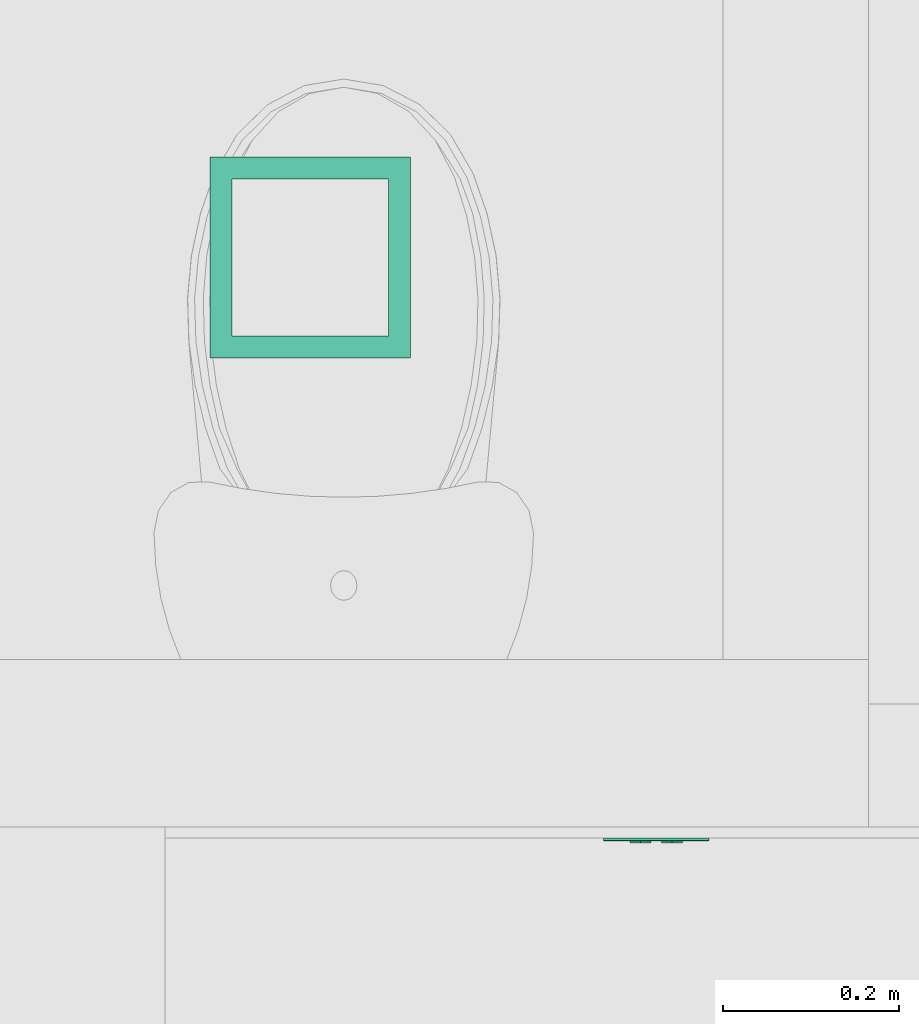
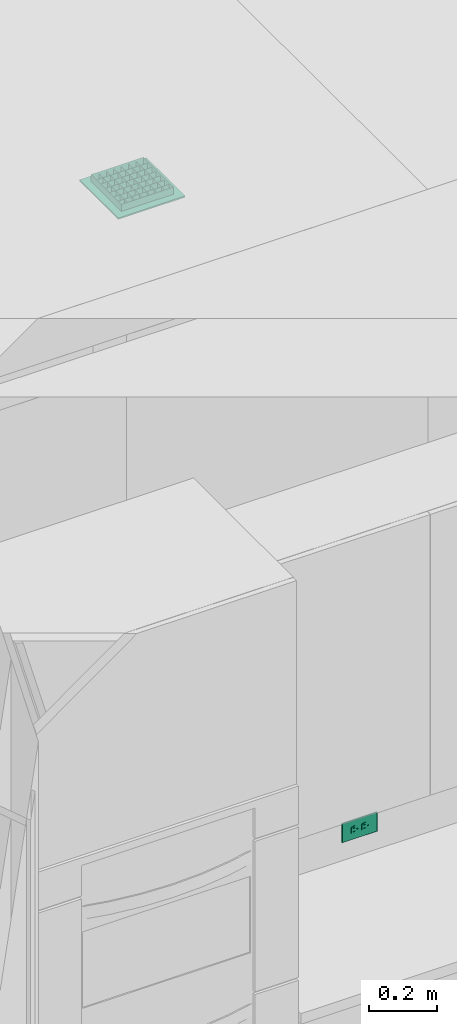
# One storey, part 28 of 103: 1 distribution flow element, 1 flow controller.
"""IFC2X3 building model written with IfcOpenShell, lengths in inches."""

from ifc_helpers import new_model, entity, si_unit, converted_unit, derived_unit, money_unit, direction, frame, origin_with_axes, place, context, subcontext, project, spatial, open_shell, faceted_brep, surface_model, source, transform, mapped, type_object, element, save


model = new_model("IFC2X3")

# Units and contexts
model_context = context("Model", 3, precision=0.00039370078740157, world=origin_with_axes(), true_north=direction((0.0, 1.0)))
plan_context = context("Plan", 3, precision=0.00039370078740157, world=origin_with_axes(), true_north=direction((0.0, 1.0)))
body_context = subcontext(model_context, "Body", "Model", "MODEL_VIEW")
ifc_project = project(units=[converted_unit("LENGTHUNIT", "INCH", entity("IfcPositiveLengthMeasure", 0.0254), si_unit("LENGTHUNIT", "METRE"), dimensions=[1, 0, 0, 0, 0, 0, 0]), converted_unit("AREAUNIT", "SQUARE_FOOT", entity("IfcPositiveLengthMeasure", 0.09290304), si_unit("AREAUNIT", "SQUARE_METRE"), dimensions=[2, 0, 0, 0, 0, 0, 0]), si_unit("PLANEANGLEUNIT", "RADIAN"), si_unit("SOLIDANGLEUNIT", "STERADIAN"), money_unit("USD"), converted_unit("TIMEUNIT", "Year", entity("IfcTimeMeasure", 31557600.0), si_unit("TIMEUNIT", "SECOND"), dimensions=[0, 0, 1, 0, 0, 0, 0]), si_unit("MASSUNIT", "GRAM", prefix="KILO"), si_unit("THERMODYNAMICTEMPERATUREUNIT", "DEGREE_CELSIUS"), si_unit("LUMINOUSINTENSITYUNIT", "LUMEN"), si_unit("ENERGYUNIT", "JOULE", prefix="MEGA"), derived_unit("SPECIFICHEATCAPACITYUNIT", [(si_unit("ENERGYUNIT", "JOULE"), 1), (si_unit("MASSUNIT", "GRAM", prefix="KILO"), -1), (si_unit("THERMODYNAMICTEMPERATUREUNIT", "KELVIN"), -1)])], contexts=[model_context, plan_context])

# Site, building, storey
site_placement = place(None, origin_with_axes())
site = spatial("IfcSite", under=ifc_project, at=site_placement, Name="Site", CompositionType="ELEMENT")
building_placement = place(site_placement, origin_with_axes())
building = spatial("IfcBuilding", under=site, at=building_placement, Name="Building", CompositionType="ELEMENT")
storey_placement = place(building_placement, frame((0.0, 0.0, 127.9999999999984), z_axis=(0.0, 0.0, 1.0), x_axis=(1.0, 0.0, 0.0)))
storey = spatial("IfcBuildingStorey", under=building, at=storey_placement, Name="Second Floor", CompositionType="ELEMENT", Elevation=128.0)

# Distribution flow element
valve_type = type_object("IfcValveType", Name="Ceiling Grille", PredefinedType="NOTDEFINED")
shared_shape_1 = source(origin_with_axes(), body_context, "Body", "SurfaceModel", [
    faceted_brep([(-4.499876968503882, 4.499876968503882, -0.196850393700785), (-4.499876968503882, 4.499876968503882, 0.0), (4.499876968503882, 4.499876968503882, 0.0), (4.499876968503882, 4.499876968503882, -0.196850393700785), (-4.499876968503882, -4.499876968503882, -0.196850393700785), (-4.499876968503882, -4.499876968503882, 0.0), (4.499876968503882, -4.499876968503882, 0.0), (-3.515624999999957, 3.515624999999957, 0.0), (3.515624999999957, 3.515624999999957, 0.0), (3.515624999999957, -3.515624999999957, 0.0), (-3.515624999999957, -3.515624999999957, 0.0), (4.499876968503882, -4.499876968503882, -0.196850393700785), (-3.515624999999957, 3.515624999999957, -0.196850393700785), (-3.515624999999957, -3.515624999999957, -0.196850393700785), (3.515624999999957, -3.515624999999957, -0.196850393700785), (3.515624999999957, 3.515624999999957, -0.196850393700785)], [[[0, 1, 2, 3]], [[4, 5, 1, 0]], [[1, 5, 6, 2], [7, 8, 9, 10]], [[3, 2, 6, 11]], [[0, 3, 11, 4], [12, 13, 14, 15]], [[11, 6, 5, 4]], [[15, 8, 7, 12]], [[14, 9, 8, 15]], [[13, 10, 9, 14]], [[12, 7, 10, 13]]]),
    surface_model("IfcShellBasedSurfaceModel", [(3.4762549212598, 3.499999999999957, -0.196850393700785), (3.4762549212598, 3.499999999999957, 0.78740157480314), (-3.4762549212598, 3.499999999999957, 0.78740157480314), (-3.4762549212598, 3.499999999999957, -0.196850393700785)], [open_shell([[[0, 1, 2, 3]]])]),
    surface_model("IfcShellBasedSurfaceModel", [(3.4762549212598, 2.499999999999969, -0.196850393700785), (3.4762549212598, 2.499999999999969, 0.78740157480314), (-3.4762549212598, 2.499999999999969, 0.78740157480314), (-3.4762549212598, 2.499999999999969, -0.196850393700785)], [open_shell([[[0, 1, 2, 3]]])]),
    surface_model("IfcShellBasedSurfaceModel", [(3.4762549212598, 1.499999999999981, -0.196850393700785), (3.4762549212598, 1.499999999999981, 0.78740157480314), (-3.4762549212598, 1.499999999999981, 0.78740157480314), (-3.4762549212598, 1.499999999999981, -0.196850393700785)], [open_shell([[[0, 1, 2, 3]]])]),
    surface_model("IfcShellBasedSurfaceModel", [(3.4762549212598, 0.499999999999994, -0.196850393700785), (3.4762549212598, 0.4999999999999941, 0.78740157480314), (-3.4762549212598, 0.4999999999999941, 0.78740157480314), (-3.4762549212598, 0.499999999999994, -0.196850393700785)], [open_shell([[[0, 1, 2, 3]]])]),
    surface_model("IfcShellBasedSurfaceModel", [(3.4762549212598, -0.499999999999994, -0.196850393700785), (3.4762549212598, -0.4999999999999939, 0.78740157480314), (-3.4762549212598, -0.4999999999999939, 0.78740157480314), (-3.4762549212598, -0.499999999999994, -0.196850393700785)], [open_shell([[[0, 1, 2, 3]]])]),
    surface_model("IfcShellBasedSurfaceModel", [(3.4762549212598, -1.499999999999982, -0.196850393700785), (3.4762549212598, -1.499999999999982, 0.78740157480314), (-3.4762549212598, -1.499999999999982, 0.78740157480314), (-3.4762549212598, -1.499999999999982, -0.196850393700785)], [open_shell([[[0, 1, 2, 3]]])]),
    surface_model("IfcShellBasedSurfaceModel", [(3.4762549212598, -2.499999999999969, -0.196850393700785), (3.4762549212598, -2.499999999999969, 0.78740157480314), (-3.4762549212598, -2.499999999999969, 0.78740157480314), (-3.4762549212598, -2.499999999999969, -0.196850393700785)], [open_shell([[[0, 1, 2, 3]]])]),
    surface_model("IfcShellBasedSurfaceModel", [(3.4762549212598, -3.499999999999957, -0.196850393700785), (3.4762549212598, -3.499999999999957, 0.78740157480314), (-3.4762549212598, -3.499999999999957, 0.78740157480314), (-3.4762549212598, -3.499999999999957, -0.196850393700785)], [open_shell([[[0, 1, 2, 3]]])]),
    surface_model("IfcShellBasedSurfaceModel", [(-3.499999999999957, -3.4762549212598, -0.196850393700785), (-3.499999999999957, -3.4762549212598, 0.78740157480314), (-3.499999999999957, 3.4762549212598, 0.78740157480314), (-3.499999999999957, 3.4762549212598, -0.196850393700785)], [open_shell([[[0, 1, 2, 3]]])]),
    surface_model("IfcShellBasedSurfaceModel", [(-2.499999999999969, -3.4762549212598, -0.196850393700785), (-2.499999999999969, -3.4762549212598, 0.78740157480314), (-2.49999999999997, 3.4762549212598, 0.78740157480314), (-2.49999999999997, 3.4762549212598, -0.196850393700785)], [open_shell([[[0, 1, 2, 3]]])]),
    surface_model("IfcShellBasedSurfaceModel", [(-1.499999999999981, -3.4762549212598, -0.196850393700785), (-1.499999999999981, -3.4762549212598, 0.78740157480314), (-1.499999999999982, 3.4762549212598, 0.78740157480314), (-1.499999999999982, 3.4762549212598, -0.196850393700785)], [open_shell([[[0, 1, 2, 3]]])]),
    surface_model("IfcShellBasedSurfaceModel", [(-0.499999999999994, -3.4762549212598, -0.196850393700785), (-0.4999999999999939, -3.4762549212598, 0.78740157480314), (-0.4999999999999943, 3.4762549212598, 0.78740157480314), (-0.4999999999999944, 3.4762549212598, -0.196850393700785)], [open_shell([[[0, 1, 2, 3]]])]),
    surface_model("IfcShellBasedSurfaceModel", [(0.499999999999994, -3.4762549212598, -0.196850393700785), (0.4999999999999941, -3.4762549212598, 0.78740157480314), (0.4999999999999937, 3.4762549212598, 0.78740157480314), (0.4999999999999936, 3.4762549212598, -0.196850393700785)], [open_shell([[[0, 1, 2, 3]]])]),
    surface_model("IfcShellBasedSurfaceModel", [(1.499999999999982, -3.4762549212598, -0.196850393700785), (1.499999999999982, -3.4762549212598, 0.78740157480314), (1.499999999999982, 3.4762549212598, 0.78740157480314), (1.499999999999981, 3.4762549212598, -0.196850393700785)], [open_shell([[[0, 1, 2, 3]]])]),
    surface_model("IfcShellBasedSurfaceModel", [(2.499999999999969, -3.4762549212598, -0.196850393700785), (2.499999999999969, -3.4762549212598, 0.78740157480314), (2.499999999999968, 3.4762549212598, 0.78740157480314), (2.499999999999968, 3.4762549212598, -0.196850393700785)], [open_shell([[[0, 1, 2, 3]]])]),
    surface_model("IfcShellBasedSurfaceModel", [(3.499999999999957, -3.4762549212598, -0.196850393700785), (3.499999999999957, -3.4762549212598, 0.78740157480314), (3.499999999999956, 3.4762549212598, 0.78740157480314), (3.499999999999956, 3.4762549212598, -0.196850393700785)], [open_shell([[[0, 1, 2, 3]]])]),
    surface_model("IfcShellBasedSurfaceModel", [(-3.515624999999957, -3.515624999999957, 0.0), (-3.515624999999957, -3.515624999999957, 0.999999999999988), (-3.515624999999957, 3.515624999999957, 0.9999999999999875), (-3.515624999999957, 3.515624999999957, 0.0), (3.515624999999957, -3.515624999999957, 0.0), (3.515624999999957, -3.515624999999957, 0.999999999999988), (3.515624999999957, 3.515624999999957, 0.9999999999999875), (3.515624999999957, 3.515624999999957, 0.0)], [open_shell([[[0, 1, 2, 3]], [[4, 5, 1, 0]], [[3, 2, 6, 7]], [[7, 6, 5, 4]]])]),
])
distribution_flow_element_placement = place(storey_placement, frame((70.49987329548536, 421.0036828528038, 119.4999999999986), z_axis=(0.0, 0.0, 1.0), x_axis=(-0.9999999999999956, -9.406550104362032e-08, 0.0)))
element("IfcDistributionFlowElement", 1, at=distribution_flow_element_placement, inside=storey, type_object=valve_type, Name="FU - 007", context=body_context, shape_type="MappedRepresentation", body=[
    mapped(shared_shape_1, transform((0.0, 0.0, 0.0))),
])

# Flow controller
switching_device_type = type_object("IfcSwitchingDeviceType", Name="Outlet 1 US", PredefinedType="NOTDEFINED")
shared_shape_2 = source(origin_with_axes(), body_context, "Body", "Brep", [
    faceted_brep([(1.18110236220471, -0.03444881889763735, 0.3937007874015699), (0.708661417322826, -0.03444881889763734, 0.5436477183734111), (0.708661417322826, -0.2165354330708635, 0.5436477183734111), (1.18110236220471, -0.2165354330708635, 0.3937007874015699), (1.18110236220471, -0.0344488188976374, -0.3937007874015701), (0.708661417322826, -0.03444881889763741, -0.543647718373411), (0.2362204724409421, -0.0344488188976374, -0.3937007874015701), (0.2362204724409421, -0.03444881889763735, 0.3937007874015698), (0.7086614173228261, -0.03444881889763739, -0.196850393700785), (0.472440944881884, -0.03444881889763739, -0.196850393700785), (0.472440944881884, -0.03444881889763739, -0.275590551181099), (0.7086614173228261, -0.03444881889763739, -0.275590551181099), (0.7086614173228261, -0.03444881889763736, 0.196850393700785), (0.7086614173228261, -0.03444881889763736, 0.275590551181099), (0.472440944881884, -0.03444881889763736, 0.275590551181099), (0.472440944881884, -0.03444881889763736, 0.196850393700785), (1.102362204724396, -0.03444881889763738, -0.07874015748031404), (1.102362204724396, -0.03444881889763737, 0.07874015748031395), (1.023622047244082, -0.03444881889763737, 0.07874015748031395), (0.984251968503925, -0.03444881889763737, 0.06819097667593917), (0.9554310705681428, -0.03444881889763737, 0.03937007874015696), (0.944881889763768, -0.03444881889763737, 0.0), (0.9554310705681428, -0.03444881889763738, -0.03937007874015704), (0.984251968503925, -0.03444881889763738, -0.06819097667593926), (1.023622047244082, -0.03444881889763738, -0.07874015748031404), (0.2362204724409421, -0.2165354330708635, 0.3937007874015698), (0.2362204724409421, -0.2165354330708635, -0.3937007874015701), (0.708661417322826, -0.2165354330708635, -0.543647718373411), (1.18110236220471, -0.2165354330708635, -0.3937007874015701), (0.7086614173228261, -0.2165354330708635, -0.196850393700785), (0.7086614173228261, -0.2165354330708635, -0.275590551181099), (0.472440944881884, -0.2165354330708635, -0.275590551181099), (0.472440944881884, -0.2165354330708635, -0.196850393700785), (0.7086614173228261, -0.2165354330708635, 0.196850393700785), (0.472440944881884, -0.2165354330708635, 0.196850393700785), (0.472440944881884, -0.2165354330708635, 0.275590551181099), (0.7086614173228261, -0.2165354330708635, 0.275590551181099), (1.102362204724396, -0.2165354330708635, -0.07874015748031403), (1.023622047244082, -0.2165354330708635, -0.07874015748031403), (0.984251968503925, -0.2165354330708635, -0.06819097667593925), (0.9554310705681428, -0.2165354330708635, -0.03937007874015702), (0.944881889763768, -0.2165354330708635, 0.0), (0.9554310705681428, -0.2165354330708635, 0.03937007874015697), (0.984251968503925, -0.2165354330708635, 0.06819097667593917), (1.023622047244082, -0.2165354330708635, 0.07874015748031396), (1.102362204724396, -0.2165354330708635, 0.07874015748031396)], [[[0, 1, 2, 3]], [[0, 4, 5, 6, 7, 1], [8, 9, 10, 11], [12, 13, 14, 15], [16, 17, 18, 19, 20, 21, 22, 23, 24]], [[1, 7, 25, 2]], [[3, 2, 25, 26, 27, 28], [29, 30, 31, 32], [33, 34, 35, 36], [37, 38, 39, 40, 41, 42, 43, 44, 45]], [[4, 0, 3, 28]], [[5, 4, 28, 27]], [[6, 5, 27, 26]], [[7, 6, 26, 25]], [[9, 8, 29, 32]], [[10, 9, 32, 31]], [[11, 10, 31, 30]], [[8, 11, 30, 29]], [[13, 12, 33, 36]], [[14, 13, 36, 35]], [[15, 14, 35, 34]], [[12, 15, 34, 33]], [[17, 16, 37, 45]], [[18, 17, 45, 44]], [[19, 18, 44, 43]], [[20, 19, 43, 42]], [[21, 20, 42, 41]], [[22, 21, 41, 40]], [[23, 22, 40, 39]], [[24, 23, 39, 38]], [[16, 24, 38, 37]]]),
    faceted_brep([(-0.2362204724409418, -0.03444881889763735, 0.3937007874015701), (-0.708661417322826, -0.03444881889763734, 0.5436477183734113), (-0.708661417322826, -0.2165354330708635, 0.5436477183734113), (-0.2362204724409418, -0.2165354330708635, 0.3937007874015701), (-0.2362204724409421, -0.0344488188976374, -0.39370078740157), (-0.708661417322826, -0.03444881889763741, -0.5436477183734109), (-1.18110236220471, -0.0344488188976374, -0.3937007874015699), (-1.18110236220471, -0.03444881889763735, 0.39370078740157), (-0.7086614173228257, -0.03444881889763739, -0.196850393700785), (-0.9448818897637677, -0.03444881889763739, -0.196850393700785), (-0.9448818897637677, -0.03444881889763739, -0.275590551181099), (-0.7086614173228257, -0.03444881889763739, -0.275590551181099), (-0.7086614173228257, -0.03444881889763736, 0.196850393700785), (-0.7086614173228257, -0.03444881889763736, 0.275590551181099), (-0.9448818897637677, -0.03444881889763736, 0.275590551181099), (-0.9448818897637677, -0.03444881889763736, 0.196850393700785), (-0.3149606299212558, -0.03444881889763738, -0.07874015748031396), (-0.3149606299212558, -0.03444881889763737, 0.07874015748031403), (-0.3937007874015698, -0.03444881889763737, 0.07874015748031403), (-0.4330708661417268, -0.03444881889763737, 0.06819097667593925), (-0.461891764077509, -0.03444881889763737, 0.03937007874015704), (-0.4724409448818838, -0.03444881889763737, 0.0), (-0.461891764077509, -0.03444881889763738, -0.03937007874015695), (-0.4330708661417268, -0.03444881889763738, -0.06819097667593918), (-0.3937007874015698, -0.03444881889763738, -0.07874015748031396), (-1.18110236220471, -0.2165354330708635, 0.39370078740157), (-1.18110236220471, -0.2165354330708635, -0.3937007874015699), (-0.708661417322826, -0.2165354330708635, -0.5436477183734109), (-0.2362204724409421, -0.2165354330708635, -0.39370078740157), (-0.7086614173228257, -0.2165354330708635, -0.196850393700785), (-0.7086614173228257, -0.2165354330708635, -0.275590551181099), (-0.9448818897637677, -0.2165354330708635, -0.275590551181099), (-0.9448818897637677, -0.2165354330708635, -0.196850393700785), (-0.7086614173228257, -0.2165354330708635, 0.196850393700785), (-0.9448818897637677, -0.2165354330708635, 0.196850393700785), (-0.9448818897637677, -0.2165354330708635, 0.275590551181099), (-0.7086614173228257, -0.2165354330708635, 0.275590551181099), (-0.3149606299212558, -0.2165354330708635, -0.07874015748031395), (-0.3937007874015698, -0.2165354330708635, -0.07874015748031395), (-0.4330708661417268, -0.2165354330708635, -0.06819097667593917), (-0.461891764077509, -0.2165354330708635, -0.03937007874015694), (-0.4724409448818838, -0.2165354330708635, 0.0), (-0.461891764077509, -0.2165354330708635, 0.03937007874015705), (-0.4330708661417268, -0.2165354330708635, 0.06819097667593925), (-0.3937007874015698, -0.2165354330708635, 0.07874015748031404), (-0.3149606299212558, -0.2165354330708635, 0.07874015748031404)], [[[0, 1, 2, 3]], [[0, 4, 5, 6, 7, 1], [8, 9, 10, 11], [12, 13, 14, 15], [16, 17, 18, 19, 20, 21, 22, 23, 24]], [[1, 7, 25, 2]], [[3, 2, 25, 26, 27, 28], [29, 30, 31, 32], [33, 34, 35, 36], [37, 38, 39, 40, 41, 42, 43, 44, 45]], [[4, 0, 3, 28]], [[5, 4, 28, 27]], [[6, 5, 27, 26]], [[7, 6, 26, 25]], [[9, 8, 29, 32]], [[10, 9, 32, 31]], [[11, 10, 31, 30]], [[8, 11, 30, 29]], [[13, 12, 33, 36]], [[14, 13, 36, 35]], [[15, 14, 35, 34]], [[12, 15, 34, 33]], [[17, 16, 37, 45]], [[18, 17, 45, 44]], [[19, 18, 44, 43]], [[20, 19, 43, 42]], [[21, 20, 42, 41]], [[22, 21, 41, 40]], [[23, 22, 40, 39]], [[24, 23, 39, 38]], [[16, 24, 38, 37]]]),
    faceted_brep([(2.327755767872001, -0.1377952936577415, -1.343503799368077), (2.327755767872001, -0.1377952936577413, 1.343503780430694), (-2.32775574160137, -0.1377952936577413, 1.343503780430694), (-2.32775574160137, -0.1377952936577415, -1.343503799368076), (1.18110236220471, -0.1377952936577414, -0.39370078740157), (0.708661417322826, -0.1377952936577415, -0.5436477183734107), (0.2362204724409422, -0.1377952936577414, -0.39370078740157), (0.2362204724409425, -0.1377952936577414, 0.3937007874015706), (0.7086614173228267, -0.1377952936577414, 0.5436477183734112), (1.18110236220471, -0.1377952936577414, 0.3937007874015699), (-1.181102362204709, -0.1377952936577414, 0.3937007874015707), (-0.7086614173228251, -0.1377952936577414, 0.5436477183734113), (-0.2362204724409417, -0.1377952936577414, 0.39370078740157), (-0.2362204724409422, -0.1377952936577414, -0.3937007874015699), (-0.708661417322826, -0.1377952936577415, -0.5436477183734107), (-1.18110236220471, -0.1377952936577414, -0.3937007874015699), (2.336671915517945, -0.1366214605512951, -1.352419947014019), (2.336671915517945, -0.1366214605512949, 1.352419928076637), (-2.336671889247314, -0.1366214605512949, 1.352419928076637), (-2.336671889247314, -0.1366214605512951, -1.352419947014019), (1.18110236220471, -0.0344488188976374, -0.39370078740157), (0.708661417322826, -0.0344488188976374, -0.5436477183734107), (0.2362204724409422, -0.0344488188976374, -0.39370078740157), (0.2362204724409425, -0.03444881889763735, 0.3937007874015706), (0.7086614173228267, -0.03444881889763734, 0.5436477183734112), (1.18110236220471, -0.03444881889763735, 0.3937007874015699), (-1.181102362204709, -0.03444881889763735, 0.3937007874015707), (-0.7086614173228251, -0.03444881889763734, 0.5436477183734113), (-0.2362204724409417, -0.03444881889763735, 0.39370078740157), (-0.2362204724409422, -0.0344488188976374, -0.3937007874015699), (-0.708661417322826, -0.0344488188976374, -0.5436477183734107), (-1.18110236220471, -0.0344488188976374, -0.3937007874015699), (2.352114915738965, -0.1277054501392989, -1.36786294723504), (2.352114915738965, -0.1277054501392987, 1.367862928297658), (-2.352114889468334, -0.1277054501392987, 1.367862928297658), (-2.352114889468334, -0.1277054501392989, -1.367862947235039), (2.361030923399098, -0.1122624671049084, -1.376778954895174), (2.361030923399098, -0.1122624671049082, 1.376778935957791), (-2.361030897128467, -0.1122624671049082, 1.376778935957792), (-2.361030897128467, -0.1122624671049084, -1.376778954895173), (2.36220473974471, -0.1033464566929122, -1.377952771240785), (2.36220473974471, -0.103346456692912, 1.377952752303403), (-2.362204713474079, -0.103346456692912, 1.377952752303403), (-2.362204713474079, -0.1033464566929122, -1.377952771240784), (2.36220472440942, 0.0, -1.377952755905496), (2.36220472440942, 0.0, 1.377952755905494), (-2.36220472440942, 0.0, 1.377952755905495), (-2.36220472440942, 0.0, -1.377952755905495)], [[[0, 1, 2, 3], [4, 5, 6, 7, 8, 9], [10, 11, 12, 13, 14, 15]], [[1, 0, 16, 17]], [[2, 1, 17, 18]], [[3, 2, 18, 19]], [[0, 3, 19, 16]], [[4, 20, 21, 5]], [[5, 21, 22, 6]], [[6, 22, 23, 7]], [[7, 23, 24, 8]], [[8, 24, 25, 9]], [[9, 25, 20, 4]], [[11, 10, 26, 27]], [[12, 11, 27, 28]], [[13, 12, 28, 29]], [[14, 13, 29, 30]], [[15, 14, 30, 31]], [[10, 15, 31, 26]], [[17, 16, 32, 33]], [[18, 17, 33, 34]], [[19, 18, 34, 35]], [[16, 19, 35, 32]], [[21, 20, 25, 24, 23, 22]], [[27, 26, 31, 30, 29, 28]], [[33, 32, 36, 37]], [[34, 33, 37, 38]], [[35, 34, 38, 39]], [[32, 35, 39, 36]], [[37, 36, 40, 41]], [[38, 37, 41, 42]], [[39, 38, 42, 43]], [[36, 39, 43, 40]], [[41, 40, 44, 45]], [[42, 41, 45, 46]], [[43, 42, 46, 47]], [[40, 43, 47, 44]], [[46, 45, 44, 47]]]),
])
flow_controller_placement = place(storey_placement, frame((86.00061448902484, 395.0014827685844, 38.99803149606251), z_axis=(0.0, 0.0, 1.0), x_axis=(0.9999999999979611, 2.01938114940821e-06, 0.0)))
element("IfcFlowController", 2, at=flow_controller_placement, inside=storey, type_object=switching_device_type, Name="FU - 029", context=body_context, shape_type="MappedRepresentation", body=[
    mapped(shared_shape_2, transform((0.0, 0.0, 0.0))),
])

save(model, "model.ifc")
